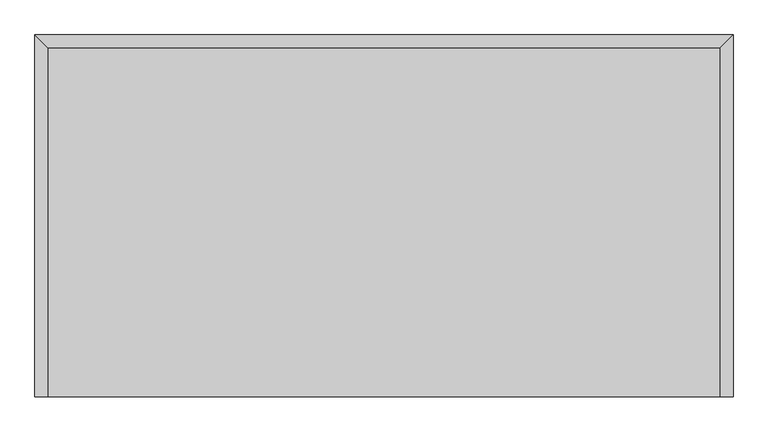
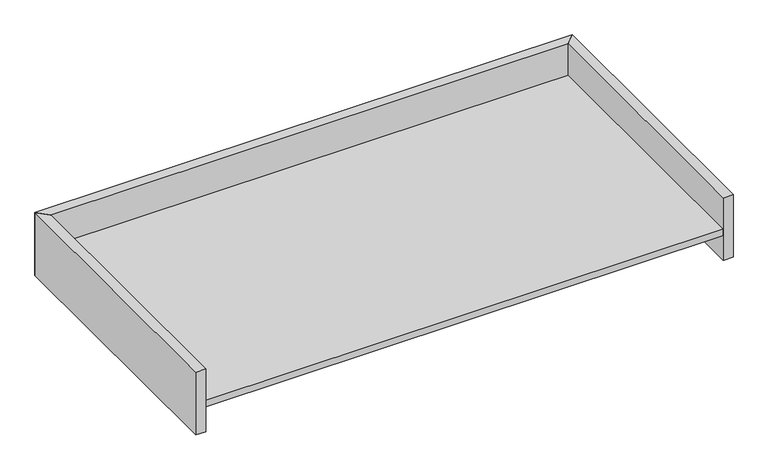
"""IFC4 building model written with IfcOpenShell, lengths in millimetres: proxy geometry, FOUNDATION^ADMIN 3_42x81 STRAIGHT FRONT TRANSACTION-PARTS SOLID."""

from ifc_helpers import new_model, si_unit, frame, origin, origin_with_axes, place, context, project, spatial, polyline, outline, extrude, source, transform, mapped, element, save


def generic_models_6f9cd0b2(model_context):
    return source(origin(), model_context, "Body", "SweptSolid", [
        extrude(outline(polyline([(2057.4, 0.0), (2019.3, 0.0), (2019.3, 1028.7), (2057.4, 1066.8), (2057.4, 0.0)])), origin_with_axes(), (0.0, 0.0, 1.0), 254.0),
        extrude(outline(polyline([(0.0, 1066.8), (2057.4, 1066.8), (2019.3, 1028.7), (38.1, 1028.7), (0.0, 1066.8)])), origin_with_axes(), (0.0, 0.0, 1.0), 254.0),
        extrude(outline(polyline([(38.1, 0.0), (0.0, 0.0), (0.0, 1066.8), (38.1, 1028.7), (38.1, 0.0)])), origin_with_axes(), (0.0, 0.0, 1.0), 254.0),
        extrude(outline(polyline([(2019.3, 1028.7), (2019.3, 0.0), (38.1, 0.0), (38.1, 1028.7), (2019.3, 1028.7)])), frame((0.0, 0.0, 101.6), z_axis=(0.0, 0.0, 1.0), x_axis=(1.0, 0.0, 0.0)), (0.0, 0.0, 1.0), 25.4),
    ])


if __name__ == "__main__":
    model = new_model("IFC4")
    model_context = context("Model", 3, world=origin())
    ifc_project = project(units=[si_unit("LENGTHUNIT", "METRE", prefix="MILLI")], contexts=[model_context])
    site = spatial("IfcSite", under=ifc_project)
    building = spatial("IfcBuilding", under=site)
    placement = place(None, origin())
    generic_models_shape = generic_models_6f9cd0b2(model_context)
    element("IfcBuildingElementProxy", 1, Name="FOUNDATION^ADMIN 3_42x81 STRAIGHT FRONT TRANSACTION-PARTS SOLID", ObjectType="FOUNDATION^ADMIN 3_42x81 STRAIGHT FRONT TRANSACTION-PARTS SOLID", at=placement, inside=building, context=model_context, shape_type="MappedRepresentation", body=[
        mapped(generic_models_shape, transform((0.0, 0.0, 0.0), x_axis=(1.0, 0.0, 0.0), y_axis=(0.0, 1.0, 0.0), z_axis=(0.0, 0.0, 1.0))),
    ])
    save(model, "model.ifc")
